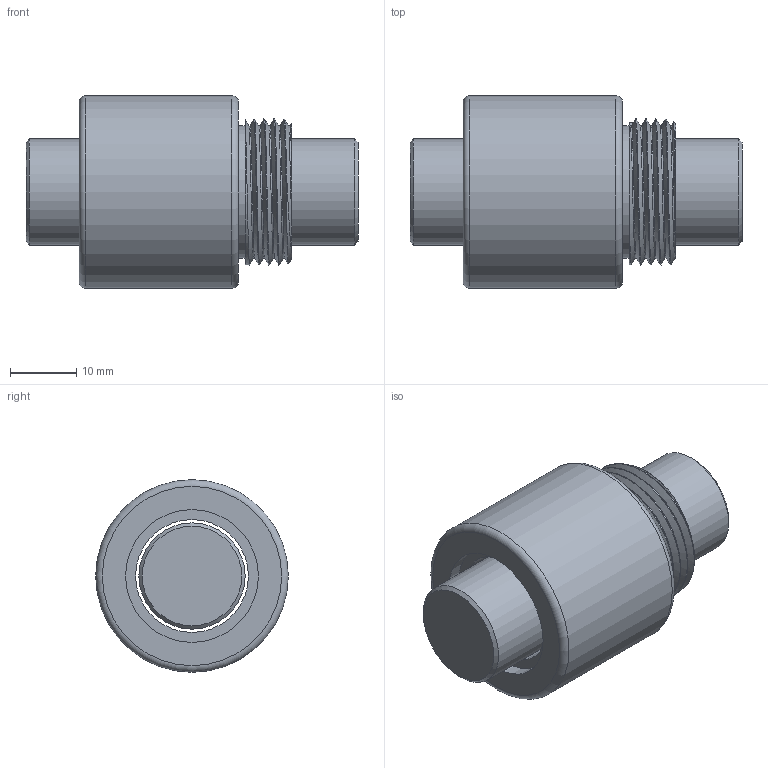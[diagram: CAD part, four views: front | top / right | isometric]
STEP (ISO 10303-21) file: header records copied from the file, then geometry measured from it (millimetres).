
FILE_DESCRIPTION (( 'STEP AP203' ), '1' );
FILE_NAME ('BSH01604-3.STEP', '2023-08-16T06:56:16', ( '' ), ( '' ), 'SwSTEP 2.0', 'SolidWorks 2022', '' );
FILE_SCHEMA (( 'CONFIG_CONTROL_DESIGN' ));
Length unit declared in the file: millimetre
Products named in the file (1): BSH01604-3
Bounding box: 50 x 29 x 29 mm (x, y, z)
Volume: 21171.6 mm3; surface area: 8515.7 mm2
Topology: 2 solids, 2 shells, 22 faces, 41 edges, 26 vertices
Faces by surface type: plane 8, cylinder 7, cone 3, bspline 2, torus 2
Full cylindrical faces by diameter (mm): 16 x1, 17 x1, 20 x2, 29 x1
Entity records: 3460 total; most frequent: CARTESIAN_POINT 2984, DIRECTION 81, ORIENTED_EDGE 64, AXIS2_PLACEMENT_3D 39, EDGE_LOOP 36, EDGE_CURVE 32, FACE_OUTER_BOUND 29, VERTEX_POINT 26
